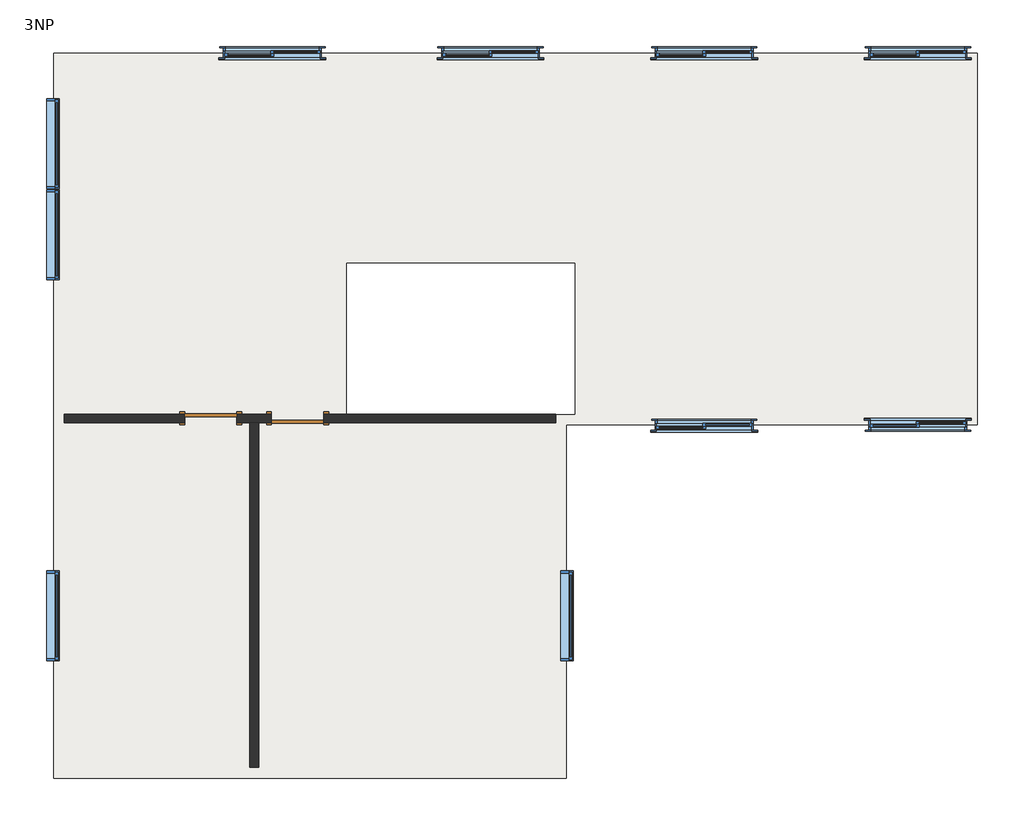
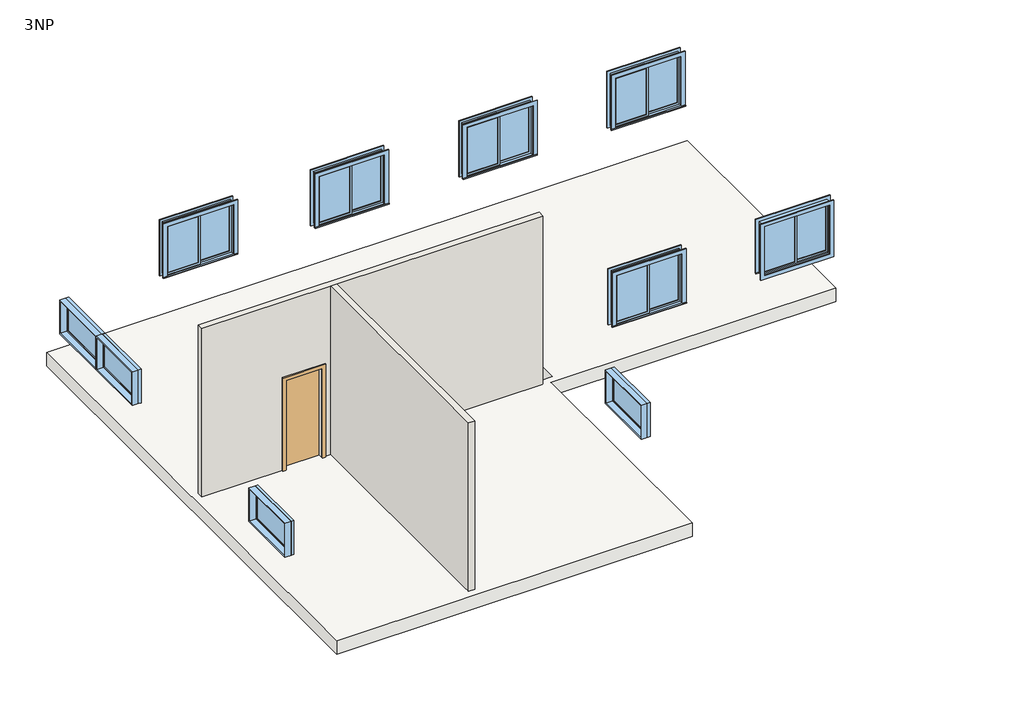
# One storey: 10 windows, 2 doors, 2 walls, 1 slab.
"""IFC4 building model written with IfcOpenShell, lengths in millimetres."""

from ifc_helpers import new_model, si_unit, frame, origin, place, context, project, spatial, polyline, outline, extrude, faceted_brep, transform, mapped, element, save
from components import m_single_flush1_0813_x_2134mm_5dcb0bd6, m_fixed1_1400_x_0800mm_5a787fd8, m_sliding_with_trim_1830_x_1220mm_c09c27c4

model = new_model("IFC4")

# Units and contexts
model_context = context("Model", 3, world=origin())
ifc_project = project(units=[si_unit("LENGTHUNIT", "METRE", prefix="MILLI")], contexts=[model_context])

# Site, building, storey
site = spatial("IfcSite", under=ifc_project)
building = spatial("IfcBuilding", under=site)
storey = spatial("IfcBuildingStorey", under=building, Name="3NP", Elevation=8000.0)

# Doors
placement = place(None, origin())
m_single_flush1_0813_x_2134mm_shape = m_single_flush1_0813_x_2134mm_5dcb0bd6(model_context)
element("IfcDoor", 1, ObjectType="M_Single-Flush1 : 0813 x 2134mm", at=placement, inside=storey, context=model_context, shape_type="MappedRepresentation", body=[
    mapped(m_single_flush1_0813_x_2134mm_shape, transform((-4900.3077176, 1355.5526806, 8000.0), x_axis=(1.0, 0.0, 0.0), y_axis=(0.0, 1.0, 0.0), z_axis=(0.0, 0.0, 1.0))),
])
element("IfcDoor", 2, ObjectType="M_Single-Flush1 : 0813 x 2134mm", at=placement, inside=storey, context=model_context, shape_type="MappedRepresentation", body=[
    mapped(m_single_flush1_0813_x_2134mm_shape, transform((-3548.8077176, 1355.5526806, 8000.0), x_axis=(-1.0, 0.0, 0.0), y_axis=(0.0, -1.0, 0.0), z_axis=(0.0, 0.0, 1.0))),
])

# Slab
element("IfcSlab", 3, ObjectType="Residential 320mm", at=placement, inside=storey, context=model_context, shape_type="Brep", body=[
    faceted_brep([(-7345.3077176, 7039.8026806, 7680.0), (7034.6922824, 7039.8026806, 7680.0), (7034.6922824, 1259.8026806, 7680.0), (634.6922824, 1259.8026806, 7680.0), (634.6922824, -4240.1973194, 7680.0), (-7345.3077176, -4240.1973194, 7680.0), (764.743045, 3773.1003657, 7680.0), (-2785.256955, 3773.1003657, 7680.0), (-2785.256955, 1424.8026806, 7680.0), (469.6922824, 1424.8026806, 7680.0), (764.743045, 1424.8026806, 7680.0), (7034.6922824, 7039.8026806, 8000.0), (-7345.3077176, 7039.8026806, 8000.0), (-7345.3077176, -4240.1973194, 8000.0), (634.6922824, -4240.1973194, 8000.0), (634.6922824, 1259.8026806, 8000.0), (7034.6922824, 1259.8026806, 8000.0), (-2785.256955, 3773.1003657, 8000.0), (764.743045, 3773.1003657, 8000.0), (764.743045, 1424.8026806, 8000.0), (469.6922824, 1424.8026806, 8000.0), (-2785.256955, 1424.8026806, 8000.0)], [[[0, 1, 2, 3, 4, 5], [6, 7, 8, 9, 10]], [[11, 12, 13, 14, 15, 16], [17, 18, 19, 20, 21]], [[1, 0, 12, 11]], [[2, 1, 11, 16]], [[3, 2, 16, 15]], [[4, 3, 15, 14]], [[5, 4, 14, 13]], [[0, 5, 13, 12]], [[17, 7, 6, 18]], [[18, 6, 10, 19]], [[19, 10, 9, 8, 21, 20]], [[7, 17, 21, 8]]]),
])

# Walls
element("IfcWall", 4, ObjectType="Interior - 138mm Partition (1-hr)", at=placement, inside=storey, context=model_context, shape_type="Brep", body=[
    faceted_brep([(-3955.3077176, 1424.8026806, 10134.0), (-3955.3077176, 1424.8026806, 8000.0), (-4493.8077176, 1424.8026806, 8000.0), (-4493.8077176, 1424.8026806, 10134.0), (-5306.8077176, 1424.8026806, 10134.0), (-5306.8077176, 1424.8026806, 8000.0), (-7180.3077176, 1424.8026806, 8000.0), (-7180.3077176, 1424.8026806, 12000.0), (469.6922824, 1424.8026806, 12000.0), (469.6922824, 1424.8026806, 8000.0), (-3142.3077176, 1424.8026806, 8000.0), (-3142.3077176, 1424.8026806, 10134.0), (-4493.8077176, 1286.3026806, 8000.0), (-4293.8077176, 1286.3026806, 8000.0), (-4155.3077176, 1286.3026806, 8000.0), (-3955.3077176, 1286.3026806, 8000.0), (-3955.3077176, 1286.3026806, 10134.0), (-3142.3077176, 1286.3026806, 10134.0), (-3142.3077176, 1286.3026806, 8000.0), (469.6922824, 1286.3026806, 8000.0), (469.6922824, 1286.3026806, 12000.0), (-4155.3077176, 1286.3026806, 12000.0), (-4293.8077176, 1286.3026806, 12000.0), (-7180.3077176, 1286.3026806, 12000.0), (-7180.3077176, 1286.3026806, 8000.0), (-5306.8077176, 1286.3026806, 8000.0), (-5306.8077176, 1286.3026806, 10134.0), (-4493.8077176, 1286.3026806, 10134.0)], [[[0, 1, 2, 3, 4, 5, 6, 7, 8, 9, 10, 11]], [[12, 13, 14, 15, 16, 17, 18, 19, 20, 21, 22, 23, 24, 25, 26, 27]], [[2, 1, 15, 14, 13, 12]], [[25, 24, 6, 5]], [[10, 9, 19, 18]], [[8, 7, 23, 22, 21, 20]], [[7, 6, 24, 23]], [[9, 8, 20, 19]], [[3, 2, 12, 27]], [[4, 3, 27, 26]], [[5, 4, 26, 25]], [[16, 15, 1, 0]], [[17, 16, 0, 11]], [[18, 17, 11, 10]]]),
])
element("IfcWall", 5, ObjectType="Interior - 138mm Partition (1-hr)", at=placement, inside=storey, context=model_context, shape_type="SweptSolid", body=[
    extrude(outline(polyline([(-4293.8077176, -4075.1973194), (-4293.8077176, 1286.3026806), (-4155.3077176, 1286.3026806), (-4155.3077176, -4075.1973194), (-4293.8077176, -4075.1973194)])), frame((0.0, 0.0, 8000.0), z_axis=(0.0, 0.0, 1.0), x_axis=(1.0, 0.0, 0.0)), (0.0, 0.0, 1.0), 4000.0),
])

# Windows
m_fixed1_1400_x_0800mm_shape = m_fixed1_1400_x_0800mm_5a787fd8(model_context)
element("IfcWindow", 6, ObjectType="M_Fixed1 : 1400 x 0800mm", at=placement, inside=storey, context=model_context, shape_type="MappedRepresentation", body=[
    mapped(m_fixed1_1400_x_0800mm_shape, transform((-7368.3077176, -1717.6973194, 8000.0), x_axis=(0.0, -1.0, 0.0), y_axis=(1.0, 0.0, 0.0), z_axis=(0.0, 0.0, 1.0))),
])
element("IfcWindow", 7, ObjectType="M_Fixed1 : 1400 x 0800mm", at=placement, inside=storey, context=model_context, shape_type="MappedRepresentation", body=[
    mapped(m_fixed1_1400_x_0800mm_shape, transform((-7368.3077176, 4217.3026806, 8000.0), x_axis=(0.0, -1.0, 0.0), y_axis=(1.0, 0.0, 0.0), z_axis=(0.0, 0.0, 1.0))),
])
element("IfcWindow", 8, ObjectType="M_Fixed1 : 1400 x 0800mm", at=placement, inside=storey, context=model_context, shape_type="MappedRepresentation", body=[
    mapped(m_fixed1_1400_x_0800mm_shape, transform((-7368.3077176, 5632.3026806, 8000.0), x_axis=(0.0, -1.0, 0.0), y_axis=(1.0, 0.0, 0.0), z_axis=(0.0, 0.0, 1.0))),
])
element("IfcWindow", 9, ObjectType="M_Fixed1 : 1400 x 0800mm", at=placement, inside=storey, context=model_context, shape_type="MappedRepresentation", body=[
    mapped(m_fixed1_1400_x_0800mm_shape, transform((631.6922824, -1717.6973194, 8000.0), x_axis=(0.0, -1.0, 0.0), y_axis=(1.0, 0.0, 0.0), z_axis=(0.0, 0.0, 1.0))),
])
m_sliding_with_trim_1830_x_1220mm_shape = m_sliding_with_trim_1830_x_1220mm_c09c27c4(model_context)
element("IfcWindow", 10, ObjectType="M_Sliding with Trim : 1830 x 1220mm", at=placement, inside=storey, context=model_context, shape_type="MappedRepresentation", body=[
    mapped(m_sliding_with_trim_1830_x_1220mm_shape, transform((6107.6922824, 7049.8026806, 8000.0), x_axis=(-1.0, 0.0, 0.0), y_axis=(0.0, -1.0, 0.0), z_axis=(0.0, 0.0, 1.0))),
])
element("IfcWindow", 11, ObjectType="M_Sliding with Trim : 1830 x 1220mm", at=placement, inside=storey, context=model_context, shape_type="MappedRepresentation", body=[
    mapped(m_sliding_with_trim_1830_x_1220mm_shape, transform((2781.6922824, 7049.8026806, 8000.0), x_axis=(-1.0, 0.0, 0.0), y_axis=(0.0, -1.0, 0.0), z_axis=(0.0, 0.0, 1.0))),
])
element("IfcWindow", 12, ObjectType="M_Sliding with Trim : 1830 x 1220mm", at=placement, inside=storey, context=model_context, shape_type="MappedRepresentation", body=[
    mapped(m_sliding_with_trim_1830_x_1220mm_shape, transform((6107.6922824, 1249.8026806, 8000.0), x_axis=(1.0, 0.0, 0.0), y_axis=(0.0, 1.0, 0.0), z_axis=(0.0, 0.0, 1.0))),
])
element("IfcWindow", 13, ObjectType="M_Sliding with Trim : 1830 x 1220mm", at=placement, inside=storey, context=model_context, shape_type="MappedRepresentation", body=[
    mapped(m_sliding_with_trim_1830_x_1220mm_shape, transform((2781.6922824, 1249.8026806, 8000.0), x_axis=(-1.0, 0.0, 0.0), y_axis=(0.0, -1.0, 0.0), z_axis=(0.0, 0.0, 1.0))),
])
element("IfcWindow", 14, ObjectType="M_Sliding with Trim : 1830 x 1220mm", at=placement, inside=storey, context=model_context, shape_type="MappedRepresentation", body=[
    mapped(m_sliding_with_trim_1830_x_1220mm_shape, transform((-544.3077176, 7049.8026806, 8000.0), x_axis=(-1.0, 0.0, 0.0), y_axis=(0.0, -1.0, 0.0), z_axis=(0.0, 0.0, 1.0))),
])
element("IfcWindow", 15, ObjectType="M_Sliding with Trim : 1830 x 1220mm", at=placement, inside=storey, context=model_context, shape_type="MappedRepresentation", body=[
    mapped(m_sliding_with_trim_1830_x_1220mm_shape, transform((-3940.1577176, 7049.8026806, 8000.0), x_axis=(-1.0, 0.0, 0.0), y_axis=(0.0, -1.0, 0.0), z_axis=(0.0, 0.0, 1.0))),
])

save(model, "model.ifc")
